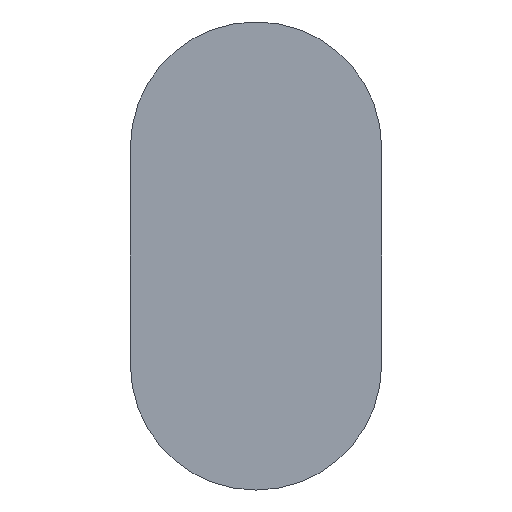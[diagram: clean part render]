
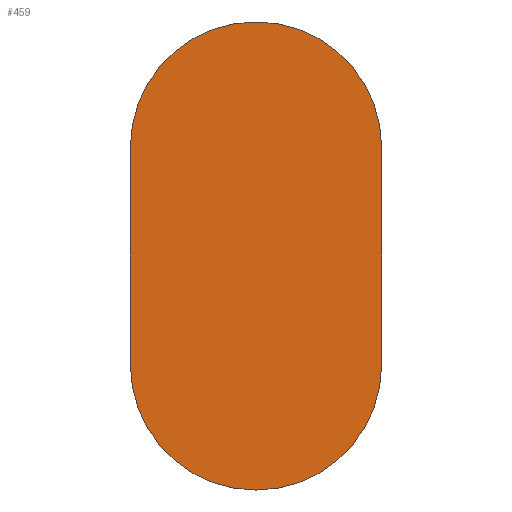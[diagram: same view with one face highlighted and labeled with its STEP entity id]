
A CAD part, front view. The second image highlights one B-rep face of the part: STEP entity #459.
In plain terms, the highlighted planar face has unit normal (0, -1, 0).
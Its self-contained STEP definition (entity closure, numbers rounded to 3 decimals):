
#50 = PLANE('',#51);
#51 = AXIS2_PLACEMENT_3D('',#52,#53,#54);
#52 = CARTESIAN_POINT('',(4.2,-35.65,51.6));
#53 = DIRECTION('',(1.,0.,0.));
#54 = DIRECTION('',(0.,1.,0.));
#75 = VERTEX_POINT('',#76);
#76 = CARTESIAN_POINT('',(4.2,-35.65,49.41));
#90 = CYLINDRICAL_SURFACE('',#91,2.19);
#91 = AXIS2_PLACEMENT_3D('',#92,#93,#94);
#92 = CARTESIAN_POINT('',(6.39,-35.65,49.41));
#93 = DIRECTION('',(0.,1.,0.));
#94 = DIRECTION('',(-1.,0.,0.));
#102 = EDGE_CURVE('',#75,#103,#105,.T.);
#103 = VERTEX_POINT('',#104);
#104 = CARTESIAN_POINT('',(4.2,-35.65,45.59));
#105 = SURFACE_CURVE('',#106,(#110,#117),.PCURVE_S1.);
#106 = LINE('',#107,#108);
#107 = CARTESIAN_POINT('',(4.2,-35.65,51.6));
#108 = VECTOR('',#109,1.);
#109 = DIRECTION('',(0.,0.,-1.));
#110 = PCURVE('',#50,#111);
#111 = DEFINITIONAL_REPRESENTATION('',(#112),#116);
#112 = LINE('',#113,#114);
#113 = CARTESIAN_POINT('',(0.,0.));
#114 = VECTOR('',#115,1.);
#115 = DIRECTION('',(0.,-1.));
#116 = ( GEOMETRIC_REPRESENTATION_CONTEXT(2) 
PARAMETRIC_REPRESENTATION_CONTEXT() REPRESENTATION_CONTEXT('2D SPACE',''
  ) );
#117 = PCURVE('',#118,#123);
#118 = PLANE('',#119);
#119 = AXIS2_PLACEMENT_3D('',#120,#121,#122);
#120 = CARTESIAN_POINT('',(4.2,-35.65,51.6));
#121 = DIRECTION('',(0.,1.,0.));
#122 = DIRECTION('',(1.,0.,0.));
#123 = DEFINITIONAL_REPRESENTATION('',(#124),#128);
#124 = LINE('',#125,#126);
#125 = CARTESIAN_POINT('',(0.,0.));
#126 = VECTOR('',#127,1.);
#127 = DIRECTION('',(0.,1.));
#128 = ( GEOMETRIC_REPRESENTATION_CONTEXT(2) 
PARAMETRIC_REPRESENTATION_CONTEXT() REPRESENTATION_CONTEXT('2D SPACE',''
  ) );
#144 = CYLINDRICAL_SURFACE('',#145,2.19);
#145 = AXIS2_PLACEMENT_3D('',#146,#147,#148);
#146 = CARTESIAN_POINT('',(6.39,-35.65,45.59));
#147 = DIRECTION('',(0.,1.,0.));
#148 = DIRECTION('',(-1.,0.,0.));
#200 = PLANE('',#201);
#201 = AXIS2_PLACEMENT_3D('',#202,#203,#204);
#202 = CARTESIAN_POINT('',(4.2,-35.65,51.6));
#203 = DIRECTION('',(0.,0.,-1.));
#204 = DIRECTION('',(0.,1.,0.));
#233 = CYLINDRICAL_SURFACE('',#234,2.19);
#234 = AXIS2_PLACEMENT_3D('',#235,#236,#237);
#235 = CARTESIAN_POINT('',(6.41,-35.65,49.41));
#236 = DIRECTION('',(0.,1.,0.));
#237 = DIRECTION('',(1.,0.,0.));
#261 = PLANE('',#262);
#262 = AXIS2_PLACEMENT_3D('',#263,#264,#265);
#263 = CARTESIAN_POINT('',(8.6,-35.65,51.6));
#264 = DIRECTION('',(1.,0.,0.));
#265 = DIRECTION('',(0.,1.,0.));
#290 = CYLINDRICAL_SURFACE('',#291,2.19);
#291 = AXIS2_PLACEMENT_3D('',#292,#293,#294);
#292 = CARTESIAN_POINT('',(6.41,-35.65,45.59));
#293 = DIRECTION('',(0.,1.,0.));
#294 = DIRECTION('',(1.,0.,0.));
#318 = PLANE('',#319);
#319 = AXIS2_PLACEMENT_3D('',#320,#321,#322);
#320 = CARTESIAN_POINT('',(4.2,-35.65,43.4));
#321 = DIRECTION('',(0.,0.,-1.));
#322 = DIRECTION('',(0.,1.,0.));
#359 = EDGE_CURVE('',#75,#360,#362,.T.);
#360 = VERTEX_POINT('',#361);
#361 = CARTESIAN_POINT('',(6.39,-35.65,51.6));
#362 = SURFACE_CURVE('',#363,(#368,#375),.PCURVE_S1.);
#363 = CIRCLE('',#364,2.19);
#364 = AXIS2_PLACEMENT_3D('',#365,#366,#367);
#365 = CARTESIAN_POINT('',(6.39,-35.65,49.41));
#366 = DIRECTION('',(-0.,1.,0.));
#367 = DIRECTION('',(0.,0.,1.));
#368 = PCURVE('',#90,#369);
#369 = DEFINITIONAL_REPRESENTATION('',(#370),#374);
#370 = LINE('',#371,#372);
#371 = CARTESIAN_POINT('',(-4.712,0.));
#372 = VECTOR('',#373,1.);
#373 = DIRECTION('',(1.,0.));
#374 = ( GEOMETRIC_REPRESENTATION_CONTEXT(2) 
PARAMETRIC_REPRESENTATION_CONTEXT() REPRESENTATION_CONTEXT('2D SPACE',''
  ) );
#375 = PCURVE('',#118,#376);
#376 = DEFINITIONAL_REPRESENTATION('',(#377),#381);
#377 = CIRCLE('',#378,2.19);
#378 = AXIS2_PLACEMENT_2D('',#379,#380);
#379 = CARTESIAN_POINT('',(2.19,2.19));
#380 = DIRECTION('',(0.,-1.));
#381 = ( GEOMETRIC_REPRESENTATION_CONTEXT(2) 
PARAMETRIC_REPRESENTATION_CONTEXT() REPRESENTATION_CONTEXT('2D SPACE',''
  ) );
#409 = EDGE_CURVE('',#103,#410,#412,.T.);
#410 = VERTEX_POINT('',#411);
#411 = CARTESIAN_POINT('',(6.39,-35.65,43.4));
#412 = SURFACE_CURVE('',#413,(#418,#425),.PCURVE_S1.);
#413 = CIRCLE('',#414,2.19);
#414 = AXIS2_PLACEMENT_3D('',#415,#416,#417);
#415 = CARTESIAN_POINT('',(6.39,-35.65,45.59));
#416 = DIRECTION('',(-0.,-1.,0.));
#417 = DIRECTION('',(0.,0.,1.));
#418 = PCURVE('',#144,#419);
#419 = DEFINITIONAL_REPRESENTATION('',(#420),#424);
#420 = LINE('',#421,#422);
#421 = CARTESIAN_POINT('',(1.571,-0.));
#422 = VECTOR('',#423,1.);
#423 = DIRECTION('',(-1.,0.));
#424 = ( GEOMETRIC_REPRESENTATION_CONTEXT(2) 
PARAMETRIC_REPRESENTATION_CONTEXT() REPRESENTATION_CONTEXT('2D SPACE',''
  ) );
#425 = PCURVE('',#118,#426);
#426 = DEFINITIONAL_REPRESENTATION('',(#427),#435);
#427 = ( BOUNDED_CURVE() B_SPLINE_CURVE(2,(#428,#429,#430,#431,#432,#433
,#434),.UNSPECIFIED.,.T.,.F.) B_SPLINE_CURVE_WITH_KNOTS((1,2,2,2,2,1),(
    -2.094,0.,2.094,4.189,6.283,
8.378),.UNSPECIFIED.) CURVE() GEOMETRIC_REPRESENTATION_ITEM() 
RATIONAL_B_SPLINE_CURVE((1.,0.5,1.,0.5,1.,0.5,1.)) REPRESENTATION_ITEM(
  '') );
#428 = CARTESIAN_POINT('',(2.19,3.82));
#429 = CARTESIAN_POINT('',(-1.603,3.82));
#430 = CARTESIAN_POINT('',(0.293,7.105));
#431 = CARTESIAN_POINT('',(2.19,10.39));
#432 = CARTESIAN_POINT('',(4.087,7.105));
#433 = CARTESIAN_POINT('',(5.983,3.82));
#434 = CARTESIAN_POINT('',(2.19,3.82));
#435 = ( GEOMETRIC_REPRESENTATION_CONTEXT(2) 
PARAMETRIC_REPRESENTATION_CONTEXT() REPRESENTATION_CONTEXT('2D SPACE',''
  ) );
#459 = ADVANCED_FACE('',(#460),#118,.F.);
#460 = FACE_BOUND('',#461,.F.);
#461 = EDGE_LOOP('',(#462,#463,#464,#487,#515,#538,#562,#583));
#462 = ORIENTED_EDGE('',*,*,#102,.F.);
#463 = ORIENTED_EDGE('',*,*,#359,.T.);
#464 = ORIENTED_EDGE('',*,*,#465,.T.);
#465 = EDGE_CURVE('',#360,#466,#468,.T.);
#466 = VERTEX_POINT('',#467);
#467 = CARTESIAN_POINT('',(6.41,-35.65,51.6));
#468 = SURFACE_CURVE('',#469,(#473,#480),.PCURVE_S1.);
#469 = LINE('',#470,#471);
#470 = CARTESIAN_POINT('',(4.2,-35.65,51.6));
#471 = VECTOR('',#472,1.);
#472 = DIRECTION('',(1.,0.,0.));
#473 = PCURVE('',#118,#474);
#474 = DEFINITIONAL_REPRESENTATION('',(#475),#479);
#475 = LINE('',#476,#477);
#476 = CARTESIAN_POINT('',(0.,0.));
#477 = VECTOR('',#478,1.);
#478 = DIRECTION('',(1.,0.));
#479 = ( GEOMETRIC_REPRESENTATION_CONTEXT(2) 
PARAMETRIC_REPRESENTATION_CONTEXT() REPRESENTATION_CONTEXT('2D SPACE',''
  ) );
#480 = PCURVE('',#200,#481);
#481 = DEFINITIONAL_REPRESENTATION('',(#482),#486);
#482 = LINE('',#483,#484);
#483 = CARTESIAN_POINT('',(0.,0.));
#484 = VECTOR('',#485,1.);
#485 = DIRECTION('',(0.,1.));
#486 = ( GEOMETRIC_REPRESENTATION_CONTEXT(2) 
PARAMETRIC_REPRESENTATION_CONTEXT() REPRESENTATION_CONTEXT('2D SPACE',''
  ) );
#487 = ORIENTED_EDGE('',*,*,#488,.F.);
#488 = EDGE_CURVE('',#489,#466,#491,.T.);
#489 = VERTEX_POINT('',#490);
#490 = CARTESIAN_POINT('',(8.6,-35.65,49.41));
#491 = SURFACE_CURVE('',#492,(#497,#508),.PCURVE_S1.);
#492 = CIRCLE('',#493,2.19);
#493 = AXIS2_PLACEMENT_3D('',#494,#495,#496);
#494 = CARTESIAN_POINT('',(6.41,-35.65,49.41));
#495 = DIRECTION('',(-0.,-1.,0.));
#496 = DIRECTION('',(0.,0.,1.));
#497 = PCURVE('',#118,#498);
#498 = DEFINITIONAL_REPRESENTATION('',(#499),#507);
#499 = ( BOUNDED_CURVE() B_SPLINE_CURVE(2,(#500,#501,#502,#503,#504,#505
,#506),.UNSPECIFIED.,.T.,.F.) B_SPLINE_CURVE_WITH_KNOTS((1,2,2,2,2,1),(
    -2.094,0.,2.094,4.189,6.283,
8.378),.UNSPECIFIED.) CURVE() GEOMETRIC_REPRESENTATION_ITEM() 
RATIONAL_B_SPLINE_CURVE((1.,0.5,1.,0.5,1.,0.5,1.)) REPRESENTATION_ITEM(
  '') );
#500 = CARTESIAN_POINT('',(2.21,0.));
#501 = CARTESIAN_POINT('',(-1.583,0.));
#502 = CARTESIAN_POINT('',(0.313,3.285));
#503 = CARTESIAN_POINT('',(2.21,6.57));
#504 = CARTESIAN_POINT('',(4.107,3.285));
#505 = CARTESIAN_POINT('',(6.003,0.));
#506 = CARTESIAN_POINT('',(2.21,0.));
#507 = ( GEOMETRIC_REPRESENTATION_CONTEXT(2) 
PARAMETRIC_REPRESENTATION_CONTEXT() REPRESENTATION_CONTEXT('2D SPACE',''
  ) );
#508 = PCURVE('',#233,#509);
#509 = DEFINITIONAL_REPRESENTATION('',(#510),#514);
#510 = LINE('',#511,#512);
#511 = CARTESIAN_POINT('',(4.712,-0.));
#512 = VECTOR('',#513,1.);
#513 = DIRECTION('',(-1.,0.));
#514 = ( GEOMETRIC_REPRESENTATION_CONTEXT(2) 
PARAMETRIC_REPRESENTATION_CONTEXT() REPRESENTATION_CONTEXT('2D SPACE',''
  ) );
#515 = ORIENTED_EDGE('',*,*,#516,.T.);
#516 = EDGE_CURVE('',#489,#517,#519,.T.);
#517 = VERTEX_POINT('',#518);
#518 = CARTESIAN_POINT('',(8.6,-35.65,45.59));
#519 = SURFACE_CURVE('',#520,(#524,#531),.PCURVE_S1.);
#520 = LINE('',#521,#522);
#521 = CARTESIAN_POINT('',(8.6,-35.65,51.6));
#522 = VECTOR('',#523,1.);
#523 = DIRECTION('',(0.,0.,-1.));
#524 = PCURVE('',#118,#525);
#525 = DEFINITIONAL_REPRESENTATION('',(#526),#530);
#526 = LINE('',#527,#528);
#527 = CARTESIAN_POINT('',(4.4,0.));
#528 = VECTOR('',#529,1.);
#529 = DIRECTION('',(0.,1.));
#530 = ( GEOMETRIC_REPRESENTATION_CONTEXT(2) 
PARAMETRIC_REPRESENTATION_CONTEXT() REPRESENTATION_CONTEXT('2D SPACE',''
  ) );
#531 = PCURVE('',#261,#532);
#532 = DEFINITIONAL_REPRESENTATION('',(#533),#537);
#533 = LINE('',#534,#535);
#534 = CARTESIAN_POINT('',(0.,0.));
#535 = VECTOR('',#536,1.);
#536 = DIRECTION('',(0.,-1.));
#537 = ( GEOMETRIC_REPRESENTATION_CONTEXT(2) 
PARAMETRIC_REPRESENTATION_CONTEXT() REPRESENTATION_CONTEXT('2D SPACE',''
  ) );
#538 = ORIENTED_EDGE('',*,*,#539,.T.);
#539 = EDGE_CURVE('',#517,#540,#542,.T.);
#540 = VERTEX_POINT('',#541);
#541 = CARTESIAN_POINT('',(6.41,-35.65,43.4));
#542 = SURFACE_CURVE('',#543,(#548,#555),.PCURVE_S1.);
#543 = CIRCLE('',#544,2.19);
#544 = AXIS2_PLACEMENT_3D('',#545,#546,#547);
#545 = CARTESIAN_POINT('',(6.41,-35.65,45.59));
#546 = DIRECTION('',(-0.,1.,0.));
#547 = DIRECTION('',(0.,0.,1.));
#548 = PCURVE('',#118,#549);
#549 = DEFINITIONAL_REPRESENTATION('',(#550),#554);
#550 = CIRCLE('',#551,2.19);
#551 = AXIS2_PLACEMENT_2D('',#552,#553);
#552 = CARTESIAN_POINT('',(2.21,6.01));
#553 = DIRECTION('',(0.,-1.));
#554 = ( GEOMETRIC_REPRESENTATION_CONTEXT(2) 
PARAMETRIC_REPRESENTATION_CONTEXT() REPRESENTATION_CONTEXT('2D SPACE',''
  ) );
#555 = PCURVE('',#290,#556);
#556 = DEFINITIONAL_REPRESENTATION('',(#557),#561);
#557 = LINE('',#558,#559);
#558 = CARTESIAN_POINT('',(-1.571,0.));
#559 = VECTOR('',#560,1.);
#560 = DIRECTION('',(1.,0.));
#561 = ( GEOMETRIC_REPRESENTATION_CONTEXT(2) 
PARAMETRIC_REPRESENTATION_CONTEXT() REPRESENTATION_CONTEXT('2D SPACE',''
  ) );
#562 = ORIENTED_EDGE('',*,*,#563,.F.);
#563 = EDGE_CURVE('',#410,#540,#564,.T.);
#564 = SURFACE_CURVE('',#565,(#569,#576),.PCURVE_S1.);
#565 = LINE('',#566,#567);
#566 = CARTESIAN_POINT('',(4.2,-35.65,43.4));
#567 = VECTOR('',#568,1.);
#568 = DIRECTION('',(1.,0.,0.));
#569 = PCURVE('',#118,#570);
#570 = DEFINITIONAL_REPRESENTATION('',(#571),#575);
#571 = LINE('',#572,#573);
#572 = CARTESIAN_POINT('',(0.,8.2));
#573 = VECTOR('',#574,1.);
#574 = DIRECTION('',(1.,0.));
#575 = ( GEOMETRIC_REPRESENTATION_CONTEXT(2) 
PARAMETRIC_REPRESENTATION_CONTEXT() REPRESENTATION_CONTEXT('2D SPACE',''
  ) );
#576 = PCURVE('',#318,#577);
#577 = DEFINITIONAL_REPRESENTATION('',(#578),#582);
#578 = LINE('',#579,#580);
#579 = CARTESIAN_POINT('',(0.,0.));
#580 = VECTOR('',#581,1.);
#581 = DIRECTION('',(0.,1.));
#582 = ( GEOMETRIC_REPRESENTATION_CONTEXT(2) 
PARAMETRIC_REPRESENTATION_CONTEXT() REPRESENTATION_CONTEXT('2D SPACE',''
  ) );
#583 = ORIENTED_EDGE('',*,*,#409,.F.);
